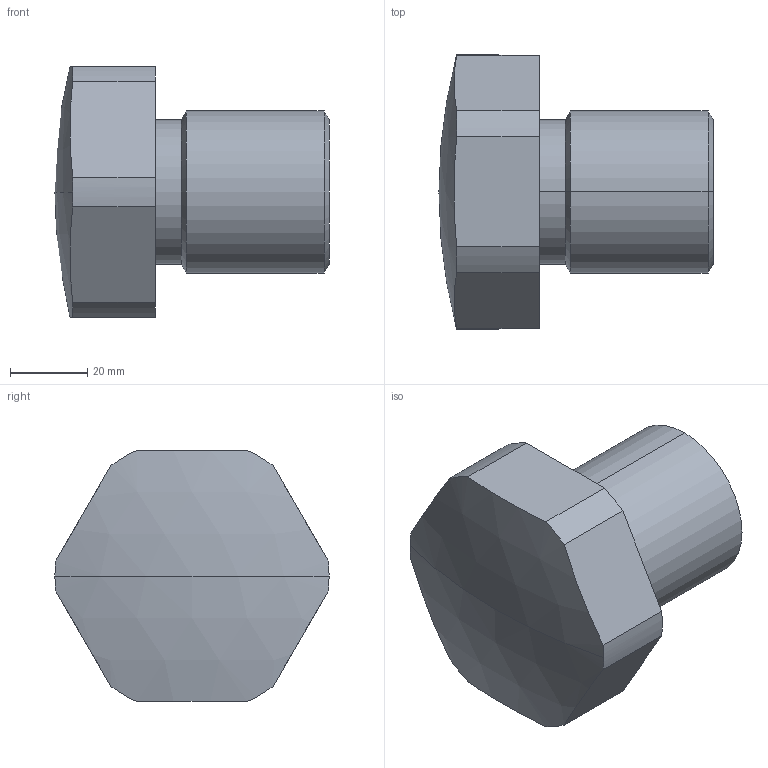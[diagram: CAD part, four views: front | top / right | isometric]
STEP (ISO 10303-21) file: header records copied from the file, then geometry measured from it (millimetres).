
FILE_DESCRIPTION (( 'STEP AP203' ), '1' );
FILE_NAME ('GERMA_Druckstueck_mit_Radius_DR-42.STEP', '2023-09-12T06:30:46', ( '' ), ( '' ), 'SwSTEP 2.0', 'SolidWorks 2016', '' );
FILE_SCHEMA (( 'CONFIG_CONTROL_DESIGN' ));
Length unit declared in the file: millimetre
Products named in the file (1): GERMA_Druckstueck_mit_Radius_DR-42
Bounding box: 71 x 71 x 65 mm (x, y, z)
Volume: 146494.1 mm3; surface area: 18187.5 mm2
Topology: 1 solids, 1 shells, 24 faces, 58 edges, 37 vertices
Faces by surface type: cylinder 10, plane 8, cone 4, sphere 2
Entity records: 791 total; most frequent: DIRECTION 140, CARTESIAN_POINT 120, ORIENTED_EDGE 116, EDGE_CURVE 58, AXIS2_PLACEMENT_3D 57, VERTEX_POINT 37, CIRCLE 32, VECTOR 26
